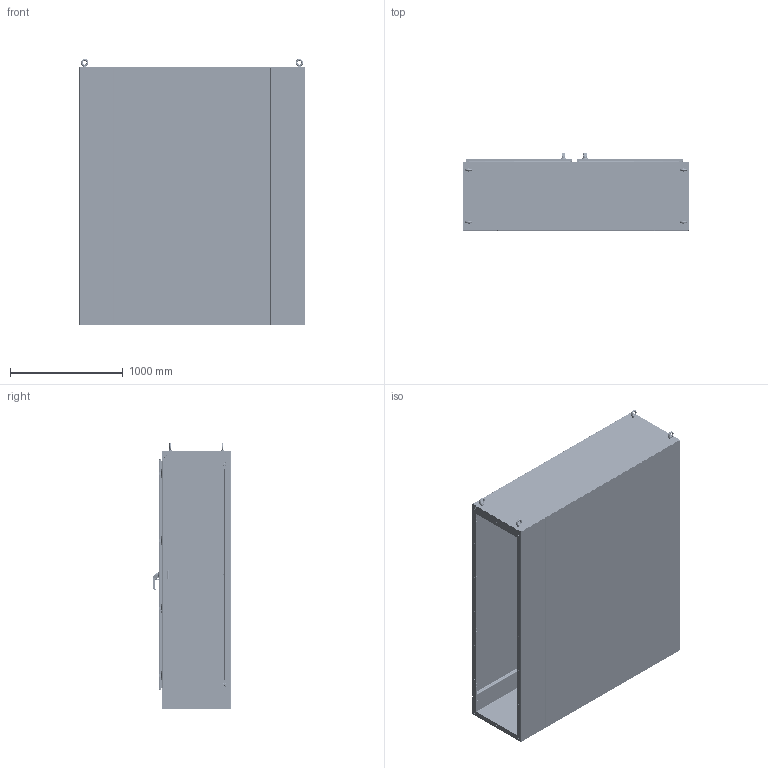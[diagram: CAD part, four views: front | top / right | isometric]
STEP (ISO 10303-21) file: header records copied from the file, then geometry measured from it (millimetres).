
FILE_DESCRIPTION((''),'2;1');
FILE_NAME('MODEL-601_ASM','2024-06-11T14:08:38',('andrew.knowlton'),('SAGINAW CONTROL & ENGINEERING'),'CREO PARAMETRIC BY PTC INC, 2021284','CREO PARAMETRIC BY PTC INC, 2021284','');
FILE_SCHEMA(('AUTOMOTIVE_DESIGN { 1 0 10303 214 1 1 1 1 }'));
Length unit declared in the file: inch
Products named in the file (124): MODEL-601-LH-R-SD; MODEL-601-LH-TP; MODEL-601-LH-L-SD; MODEL-601-LH-BCK; MODEL-601-LH-BTM; 127619; 100028; 127619_ASM; MODEL-601-LH-CCA-CHNL; MODEL-601-LH-CCA-STIF; 100062; 127618; 127617; 102535; MODEL-601-LH-CCASSY_ASM; MODEL-601-RH-DR; 100837; 100957_SCREW_MTG; 100957_PADLOCK_CATCH; 100957_SCREW_LARGE; 100957_INSERT_SHAFT; 100957_INSERT_PH; 100957_GASKET; 100957_O-RING; 100957_BASE; 100957_SPRING; 100957_HANDLE; 100957_CAM_SHAFT; 100957_HANDLE_ASM; 100957_CAM_ADAPTER; 100957_EARTH_NUT; 100957_FLANGE_NUT; 100957_CAM_NUT; 100957_ASM; 102236; 100030; 102236_ASM; MODEL-601-ROD-UPR-RHD; 128146; 128145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
Assembly tree (305 placements, depth 5):
  MODEL-601_ASM
    MODEL-601-LH-R-SD
    MODEL-601-LH-TP
    MODEL-601-LH-L-SD
    MODEL-601-LH-BCK
    MODEL-601-LH-BTM
    127619_ASM  x2
      127619
      100028
    MODEL-601-LH-CCASSY_ASM
      MODEL-601-LH-CCA-CHNL
      MODEL-601-LH-CCA-STIF
      100062  x2
      127618  x2
      127617  x2
      102535  x8
    MODEL-601-RH-DOOR-ASSY_ASM
      MODEL-601-RH-DR
      100837  x3
      100957_ASM
        100957_SCREW_MTG
        100957_PADLOCK_CATCH
        100957_SCREW_LARGE  x2
        100957_INSERT_SHAFT
        100957_INSERT_PH
        100957_GASKET
        100957_O-RING
        100957_BASE
        100957_SPRING
        100957_HANDLE_ASM
          100957_HANDLE
          100957_CAM_SHAFT
        100957_CAM_ADAPTER
        100957_EARTH_NUT
        100957_FLANGE_NUT
        100957_CAM_NUT
      102236_ASM
        102236
        100030  x2
      MODEL-601-ROD-UPR-RHD_ASM
        MODEL-601-ROD-UPR-RHD
        128146
        128145
        128144
        102482  x2
      128143  x2
      100882  x10
      112504  x2
      MODEL-601-ROD-LWR-RHD_ASM
        MODEL-601-ROD-LWR-RHD
        128146
        128145
        128144
        102482  x2
      MODEL-601-PR-GSKT-RHD
      128257_ASM  x4
        128257
      126393  x4
      102483  x4
      101369_ASM  x4
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Bounding box: 2000.25 x 687.67 x 2360.8 mm (x, y, z)
Volume: 59768270 mm3; surface area: 39105835.8 mm2
Topology: 350 solids, 350 shells, 26975 faces, 68225 edges, 41947 vertices
Faces by surface type: plane 9419, cylinder 7160, bspline 5948, torus 2084, cone 1460, sphere 844, extrusion 60
Entity records: 473207 total; most frequent: CARTESIAN_POINT 187266, ORIENTED_EDGE 43230, DIRECTION 40266, PRESENTATION_STYLE_ASSIGNMENT 21703, STYLED_ITEM 21698, EDGE_CURVE 21615, CURVE_STYLE 21567, AXIS2_PLACEMENT_3D 14835
